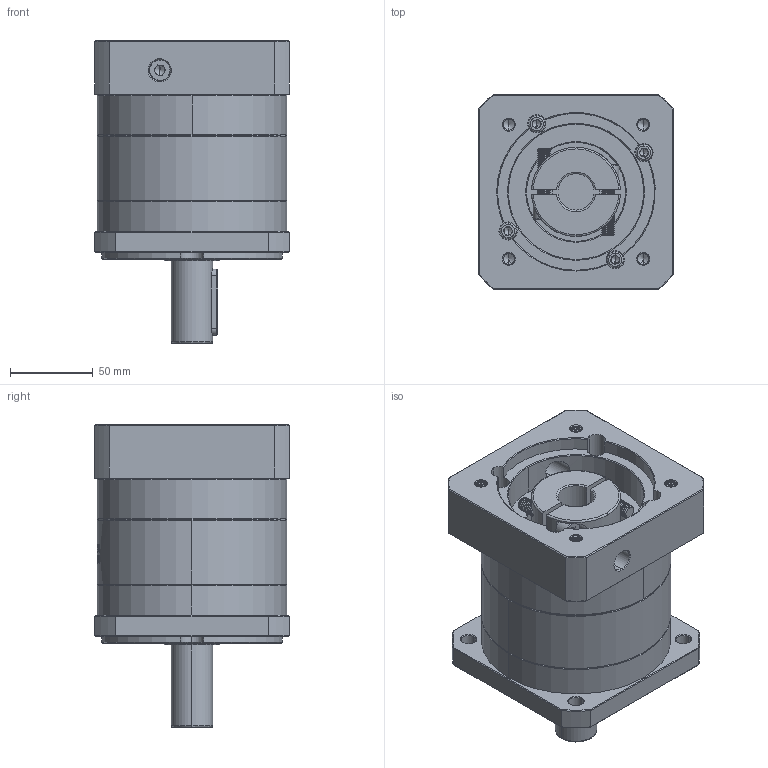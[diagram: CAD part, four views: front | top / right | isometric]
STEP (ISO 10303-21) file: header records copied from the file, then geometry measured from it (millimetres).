
FILE_DESCRIPTION (( 'STEP AP214' ), '1' );
FILE_NAME ('ZF120A-D25-L1-P2-22-95-115-M8.step', '2023-08-27T04:38:53', ( '' ), ( '' ), 'SwSTEP 2.0', 'SolidWorks 2016', '' );
FILE_SCHEMA (( 'AUTOMOTIVE_DESIGN' ));
Length unit declared in the file: millimetre
Products named in the file (1): ZF120A-D25-L1-P2-22-95-115-M8
Bounding box: 118 x 118 x 183.5 mm (x, y, z)
Volume: 1360577.8 mm3; surface area: 159124.2 mm2
Topology: 6 solids, 6 shells, 2234 faces, 5941 edges, 3808 vertices
Faces by surface type: plane 1034, bspline 439, cylinder 429, cone 332
Entity records: 123245 total; most frequent: CARTESIAN_POINT 48656, ORIENTED_EDGE 11822, DIRECTION 8535, EDGE_CURVE 5911, VERTEX_POINT 3808, LINE 3099, VECTOR 3099, AXIS2_PLACEMENT_3D 2718
